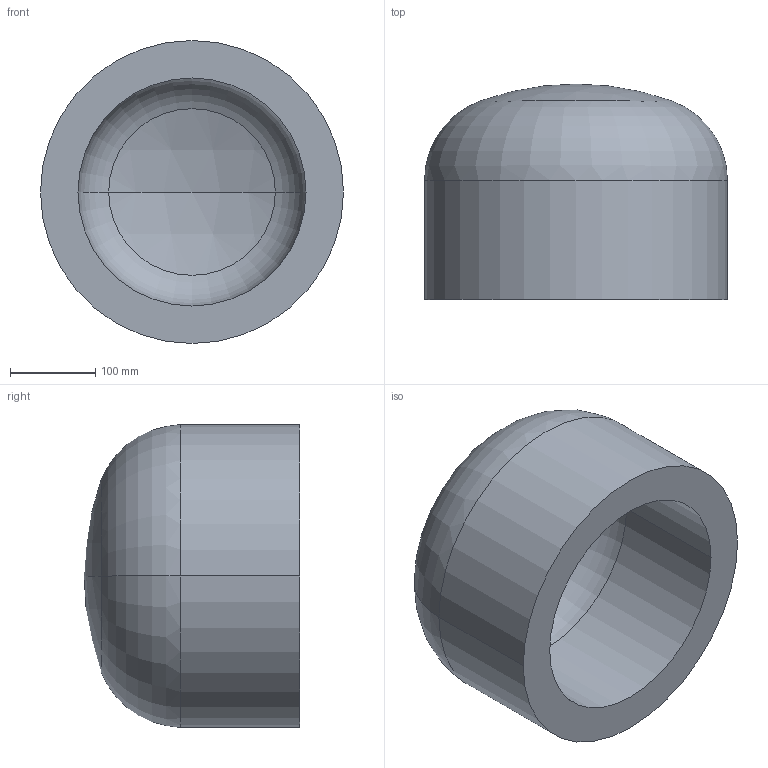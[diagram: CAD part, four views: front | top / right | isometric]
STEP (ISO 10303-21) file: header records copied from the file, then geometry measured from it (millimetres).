
FILE_DESCRIPTION (( 'STEP AP203' ), '1' );
FILE_NAME ('DIN 28013 Korbbogenform_-_Boden DIN 28013 - 355,6 x 140 - I - s=44.step', '2016-07-01T07:48:20', ( '' ), ( '' ), 'SwSTEP 2.0', 'SolidWorks 2013', '' );
FILE_SCHEMA (( 'CONFIG_CONTROL_DESIGN' ));
Length unit declared in the file: millimetre
Products named in the file (1): DIN 28013 Korbbogenform_-_Boden DIN 28013 - 355,6 x 140 - I - s=44
Bounding box: 355.6 x 252.98 x 355.6 mm (x, y, z)
Volume: 11240315 mm3; surface area: 558050.6 mm2
Topology: 1 solids, 1 shells, 13 faces, 24 edges, 14 vertices
Faces by surface type: torus 4, cylinder 4, sphere 4, plane 1
Entity records: 407 total; most frequent: DIRECTION 72, CARTESIAN_POINT 52, ORIENTED_EDGE 48, AXIS2_PLACEMENT_3D 34, EDGE_CURVE 24, CIRCLE 20, EDGE_LOOP 14, VERTEX_POINT 14
